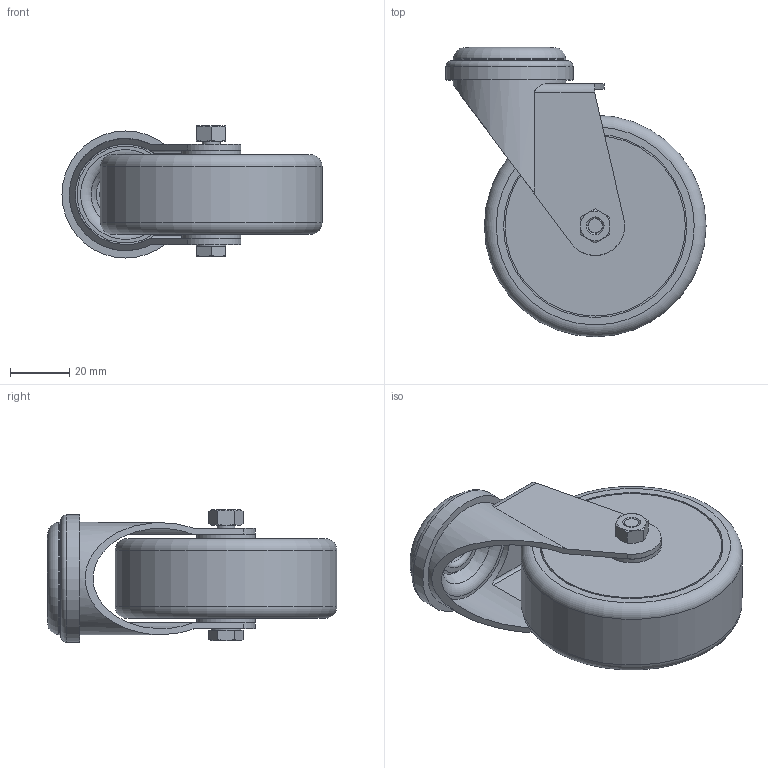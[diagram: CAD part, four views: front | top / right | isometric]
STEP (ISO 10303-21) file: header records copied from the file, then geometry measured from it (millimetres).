
FILE_DESCRIPTION(/* description */ ('STEP AP214'),/* implementation_level */ '2;1');
FILE_NAME(/* name */ '098S075TN',/* time_stamp */ '2025-03-17T13:43:40+01:00',/* author */ ('License CC BY-ND 4.0'),/* organization */ ('CADENAS'),/* preprocessor_version */ 'ST-DEVELOPER v19.3',/* originating_system */ 'PARTsolutions',/* authorisation */ ' ');
FILE_SCHEMA (('AUTOMOTIVE_DESIGN {1 0 10303 214 3 1 1}'));
Length unit declared in the file: millimetre
Products named in the file (5): 098S075TN; 098S075TN-body; 098S075TN-wheel; 098S075TN-bolt; 098S075TN-nut
Assembly tree (4 placements, depth 2):
  098S075TN
    098S075TN-body
    098S075TN-wheel
    098S075TN-bolt
    098S075TN-nut
Bounding box: 88 x 98 x 44.7 mm (x, y, z)
Volume: 138873.4 mm3; surface area: 34346.8 mm2
Topology: 4 solids, 4 shells, 124 faces, 262 edges, 160 vertices
Faces by surface type: plane 57, cylinder 32, cone 25, torus 10
Full cylindrical faces by diameter (mm): 4.917 x1, 6 x1, 6.35 x1, 6.5 x2, 10 x1, 11 x1, 17.45 x1, 20 x2, 32.8 x1, 34 x1, 38 x1, 43 x1, 61 x2, 62 x2, 75 x1
Entity records: 3413 total; most frequent: CARTESIAN_POINT 641, DIRECTION 546, ORIENTED_EDGE 446, AXIS2_PLACEMENT_3D 234, EDGE_CURVE 223, EDGE_LOOP 184, FACE_BOUND 184, VERTEX_POINT 157
